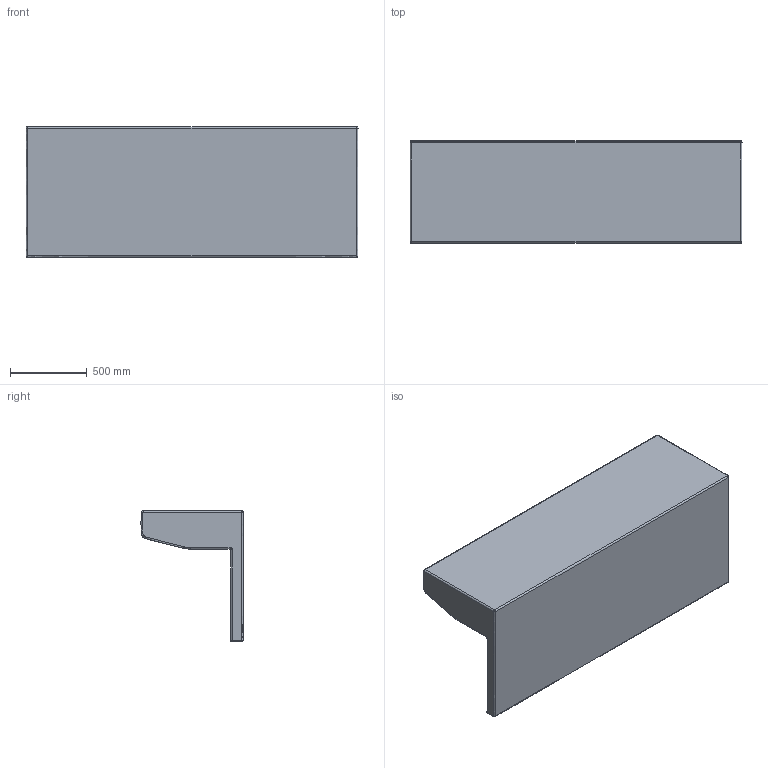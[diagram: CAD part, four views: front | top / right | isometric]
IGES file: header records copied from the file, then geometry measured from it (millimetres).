
Start section: SolidWorks IGES file using NURBS representation for surfaces
Global section: file name: D:\VICCARBE\PRODUCTOS\19-MASS\04-MODELADOS (PLANOS)\SOLIDWORKS\PIEZAS\Backs\01-IGES\VICCARBE_Back_216.IGS; native system: SolidWorks 2009; preprocessor: SolidWorks 2009; author: RUBEN; date: 110908.154950; units: millimetre
Bounding box: 2160 x 664.95 x 850 mm (x, y, z)
Surface area: 6713230 mm2 (no closed solid volume)
Topology: 0 solids, 0 shells, 44 faces, 296 edges, 290 vertices
Faces by surface type: bspline 44
